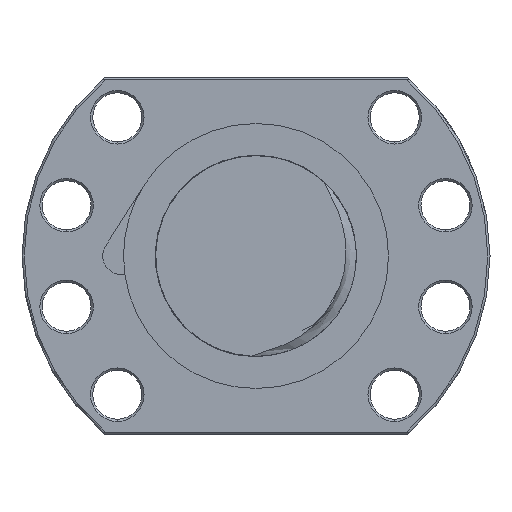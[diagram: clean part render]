
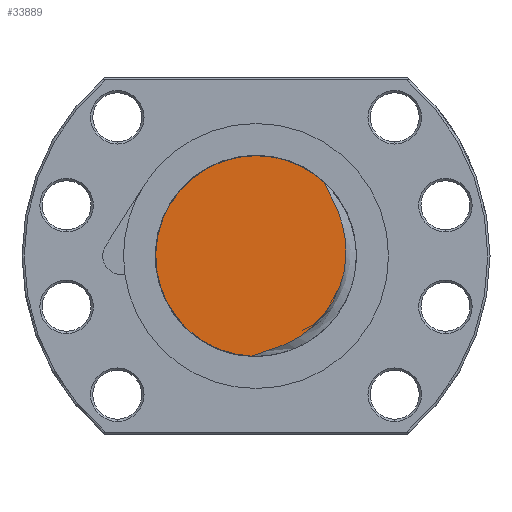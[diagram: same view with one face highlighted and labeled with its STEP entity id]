
A CAD part, left-side view. The second image highlights one B-rep face of the part: STEP entity #33889.
In plain terms, the highlighted planar face has unit normal (-1, 0, 0).
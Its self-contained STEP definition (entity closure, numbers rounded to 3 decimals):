
#3124 = CARTESIAN_POINT ( 'NONE',  ( -295., -15.168, 16.619 ) ) ;
#3125 = CARTESIAN_POINT ( 'NONE',  ( -295., -15.264, 16.37 ) ) ;
#3126 = CARTESIAN_POINT ( 'NONE',  ( -295., -15.379, 16.129 ) ) ;
#3127 = CARTESIAN_POINT ( 'NONE',  ( -295., -15.619, 15.653 ) ) ;
#3128 = CARTESIAN_POINT ( 'NONE',  ( -295., -15.745, 15.418 ) ) ;
#3129 = CARTESIAN_POINT ( 'NONE',  ( -295., -16.126, 14.714 ) ) ;
#3130 = CARTESIAN_POINT ( 'NONE',  ( -295., -16.385, 14.247 ) ) ;
#3131 = CARTESIAN_POINT ( 'NONE',  ( -295., -17.143, 12.838 ) ) ;
#3132 = CARTESIAN_POINT ( 'NONE',  ( -295., -17.621, 11.884 ) ) ;
#3133 = CARTESIAN_POINT ( 'NONE',  ( -295., -18.473, 9.924 ) ) ;
#3134 = CARTESIAN_POINT ( 'NONE',  ( -295., -18.844, 8.924 ) ) ;
#3135 = CARTESIAN_POINT ( 'NONE',  ( -295., -19.461, 6.89 ) ) ;
#3136 = CARTESIAN_POINT ( 'NONE',  ( -295., -19.706, 5.853 ) ) ;
#3137 = CARTESIAN_POINT ( 'NONE',  ( -295., -20.058, 3.744 ) ) ;
#3138 = CARTESIAN_POINT ( 'NONE',  ( -295., -20.161, 2.688 ) ) ;
#3139 = CARTESIAN_POINT ( 'NONE',  ( -295., -20.225, 0.576 ) ) ;
#3140 = CARTESIAN_POINT ( 'NONE',  ( -295., -20.185, -0.481 ) ) ;
#3141 = CARTESIAN_POINT ( 'NONE',  ( -295., -20.01, -2.067 ) ) ;
#3142 = CARTESIAN_POINT ( 'NONE',  ( -295., -19.933, -2.598 ) ) ;
#3143 = CARTESIAN_POINT ( 'NONE',  ( -295., -19.741, -3.647 ) ) ;
#3144 = CARTESIAN_POINT ( 'NONE',  ( -295., -19.628, -4.166 ) ) ;
#3145 = CARTESIAN_POINT ( 'NONE',  ( -295., -19.233, -5.704 ) ) ;
#3146 = CARTESIAN_POINT ( 'NONE',  ( -295., -18.899, -6.705 ) ) ;
#3147 = CARTESIAN_POINT ( 'NONE',  ( -295., -18.29, -8.17 ) ) ;
#3148 = CARTESIAN_POINT ( 'NONE',  ( -295., -18.069, -8.653 ) ) ;
#3149 = CARTESIAN_POINT ( 'NONE',  ( -295., -17.591, -9.605 ) ) ;
#3150 = CARTESIAN_POINT ( 'NONE',  ( -295., -17.333, -10.076 ) ) ;
#3151 = CARTESIAN_POINT ( 'NONE',  ( -295., -16.516, -11.448 ) ) ;
#3152 = CARTESIAN_POINT ( 'NONE',  ( -295., -15.912, -12.316 ) ) ;
#3153 = CARTESIAN_POINT ( 'NONE',  ( -295., -14.587, -13.96 ) ) ;
#3154 = CARTESIAN_POINT ( 'NONE',  ( -295., -13.867, -14.737 ) ) ;
#3155 = CARTESIAN_POINT ( 'NONE',  ( -295., -12.698, -15.833 ) ) ;
#3156 = CARTESIAN_POINT ( 'NONE',  ( -295., -12.295, -16.185 ) ) ;
#3157 = CARTESIAN_POINT ( 'NONE',  ( -295., -11.473, -16.857 ) ) ;
#3158 = CARTESIAN_POINT ( 'NONE',  ( -295., -11.052, -17.177 ) ) ;
#3159 = CARTESIAN_POINT ( 'NONE',  ( -295., -9.762, -18.094 ) ) ;
#3160 = CARTESIAN_POINT ( 'NONE',  ( -295., -8.865, -18.646 ) ) ;
#3161 = CARTESIAN_POINT ( 'NONE',  ( -295., -7.469, -19.392 ) ) ;
#3162 = CARTESIAN_POINT ( 'NONE',  ( -295., -6.995, -19.627 ) ) ;
#3163 = CARTESIAN_POINT ( 'NONE',  ( -295., -6.031, -20.07 ) ) ;
#3164 = CARTESIAN_POINT ( 'NONE',  ( -295., -5.539, -20.279 ) ) ;
#3165 = CARTESIAN_POINT ( 'NONE',  ( -295., -4.05, -20.866 ) ) ;
#3166 = CARTESIAN_POINT ( 'NONE',  ( -295., -3.038, -21.201 ) ) ;
#3167 = CARTESIAN_POINT ( 'NONE',  ( -295., -1.507, -21.662 ) ) ;
#3168 = CARTESIAN_POINT ( 'NONE',  ( -295., -0.994, -21.808 ) ) ;
#3169 = CARTESIAN_POINT ( 'NONE',  ( -295., -0.228, -22.036 ) ) ;
#3170 = CARTESIAN_POINT ( 'NONE',  ( -295., 0.027, -22.114 ) ) ;
#3171 = CARTESIAN_POINT ( 'NONE',  ( -295., 0.532, -22.281 ) ) ;
#3219 = CARTESIAN_POINT ( 'NONE',  ( -295., 0.783, -22.369 ) ) ;
#3220 = CARTESIAN_POINT ( 'NONE',  ( -295., 1.025, -22.477 ) ) ;
#3221 = B_SPLINE_CURVE_WITH_KNOTS ( 'NONE', 3,
 ( #3220, #3219, #3171, #3170, #3169, #3168, #3167, #3166, #3165, #3164, #3163, #3162, #3161, #3160, #3159, #3158, #3157, #3156, #3155, #3154, #3153, #3152, #3151, #3150, #3149, #3148, #3147, #3146, #3145, #3144, #3143, #3142, #3141, #3140, #3139, #3138, #3137, #3136, #3135, #3134, #3133, #3132, #3131, #3130, #3129, #3128, #3127, #3126, #3125, #3124 ),
 .UNSPECIFIED., .F., .F.,
 ( 4, 2, 2, 2, 2, 2, 2, 2, 2, 2, 2, 2, 2, 2, 2, 2, 2, 2, 2, 2, 2, 2, 2, 2, 4 ),
 ( 0.001, 0.001, 0.002, 0.004, 0.007, 0.009, 0.01, 0.013, 0.015, 0.016, 0.02, 0.023, 0.024, 0.026, 0.029, 0.031, 0.032, 0.036, 0.039, 0.042, 0.045, 0.048, 0.05, 0.051, 0.051 ),
 .UNSPECIFIED. ) ;
#3223 = DIRECTION ( 'NONE',  ( 0., 0., -1. ) ) ;
#3224 = DIRECTION ( 'NONE',  ( 1., 0., 0. ) ) ;
#3225 = CARTESIAN_POINT ( 'NONE',  ( -295., 0., 0. ) ) ;
#3226 = AXIS2_PLACEMENT_3D ( 'NONE', #3225, #3224, #3223 ) ;
#3227 = PLANE ( 'NONE',  #3226 ) ;
#3232 = FACE_OUTER_BOUND ( 'NONE', #33890, .T. ) ;
#33249 = EDGE_CURVE ( 'NONE', #33250, #33251, #34453, .T. ) ;
#33250 = VERTEX_POINT ( 'NONE', #34449 ) ;
#33251 = VERTEX_POINT ( 'NONE', #34448 ) ;
#33595 = EDGE_CURVE ( 'NONE', #33251, #33596, #37230, .T. ) ;
#33596 = VERTEX_POINT ( 'NONE', #37278 ) ;
#33889 = ADVANCED_FACE ( 'NONE', ( #3232 ), #3227, .F. ) ;
#33890 = EDGE_LOOP ( 'NONE', ( #33891, #33892, #33894 ) ) ;
#33891 = ORIENTED_EDGE ( 'NONE', *, *, #33249, .F. ) ;
#33892 = ORIENTED_EDGE ( 'NONE', *, *, #33893, .T. ) ;
#33893 = EDGE_CURVE ( 'NONE', #33250, #33596, #3221, .T. ) ;
#33894 = ORIENTED_EDGE ( 'NONE', *, *, #33595, .F. ) ;
#34448 = CARTESIAN_POINT ( 'NONE',  ( -295., 0., 22.5 ) ) ;
#34449 = CARTESIAN_POINT ( 'NONE',  ( -295., 1.025, -22.477 ) ) ;
#34450 = DIRECTION ( 'NONE',  ( 0., 1., 0. ) ) ;
#34451 = DIRECTION ( 'NONE',  ( 1., 0., 0. ) ) ;
#34452 = AXIS2_PLACEMENT_3D ( 'NONE', #34458, #34451, #34450 ) ;
#34453 = CIRCLE ( 'NONE', #34452, 22.5 ) ;
#34458 = CARTESIAN_POINT ( 'NONE',  ( -295., 0., 0. ) ) ;
#37230 = CIRCLE ( 'NONE', #37282, 22.5 ) ;
#37278 = CARTESIAN_POINT ( 'NONE',  ( -295., -15.168, 16.619 ) ) ;
#37279 = DIRECTION ( 'NONE',  ( 0., 1., 0. ) ) ;
#37280 = DIRECTION ( 'NONE',  ( 1., 0., 0. ) ) ;
#37281 = CARTESIAN_POINT ( 'NONE',  ( -295., 0., 0. ) ) ;
#37282 = AXIS2_PLACEMENT_3D ( 'NONE', #37281, #37280, #37279 ) ;
